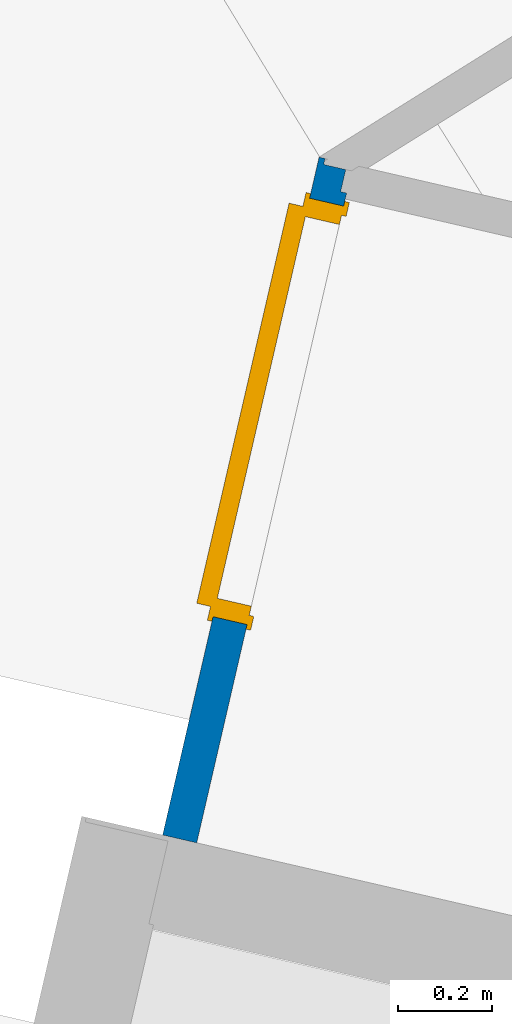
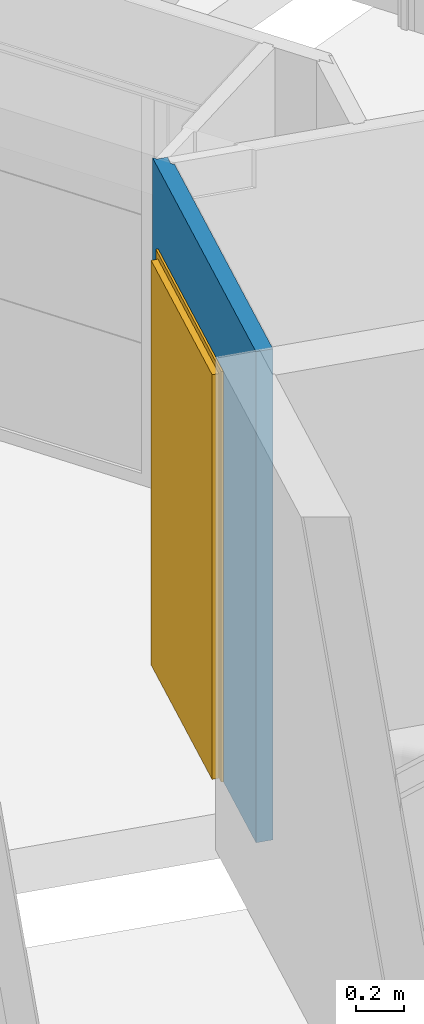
# One storey, part 30 of 119: 1 door, 1 wall, 1 opening.
"""IFC2X3 building model written with IfcOpenShell, lengths in metres."""

from ifc_helpers import new_model, entity, si_unit, converted_unit, derived_unit, money_unit, direction, frame, origin_with_axes, place, context, subcontext, project, spatial, faceted_brep, source, transform, mapped, material, material_list, type_object, element, fill, save


model = new_model("IFC2X3")

# Units and contexts
model_context = context("Model", 3, precision=1e-05, world=origin_with_axes(), true_north=direction((0.0, 1.0)))
body_context = subcontext(model_context, "Body", "Model", "MODEL_VIEW")
ifc_project = project(units=[si_unit("LENGTHUNIT", "METRE"), si_unit("AREAUNIT", "SQUARE_METRE"), si_unit("VOLUMEUNIT", "CUBIC_METRE"), converted_unit("PLANEANGLEUNIT", "DEGREE", entity("IfcPlaneAngleMeasure", 0.0174532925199), si_unit("PLANEANGLEUNIT", "RADIAN"), dimensions=[0, 0, 0, 0, 0, 0, 0]), si_unit("SOLIDANGLEUNIT", "STERADIAN"), money_unit("EUR"), converted_unit("TIMEUNIT", "Year", entity("IfcTimeMeasure", 31556926.0), si_unit("TIMEUNIT", "SECOND"), dimensions=[0, 0, 1, 0, 0, 0, 0]), si_unit("MASSUNIT", "GRAM", prefix="KILO"), si_unit("THERMODYNAMICTEMPERATUREUNIT", "DEGREE_CELSIUS"), si_unit("LUMINOUSINTENSITYUNIT", "LUMEN"), si_unit("ENERGYUNIT", "JOULE", prefix="MEGA"), derived_unit("THERMALCONDUCTANCEUNIT", [(si_unit("POWERUNIT", "WATT"), 1), (si_unit("LENGTHUNIT", "METRE"), -1), (si_unit("THERMODYNAMICTEMPERATUREUNIT", "KELVIN"), -1)]), derived_unit("SPECIFICHEATCAPACITYUNIT", [(si_unit("ENERGYUNIT", "JOULE"), 1), (si_unit("MASSUNIT", "GRAM", prefix="KILO"), -1), (si_unit("THERMODYNAMICTEMPERATUREUNIT", "KELVIN"), -1)]), derived_unit("MASSDENSITYUNIT", [(si_unit("MASSUNIT", "GRAM", prefix="KILO"), 1), (si_unit("VOLUMEUNIT", "CUBIC_METRE"), -1)])], contexts=[model_context])

# Site, building, storey
site_placement = place(None, origin_with_axes())
site = spatial("IfcSite", under=ifc_project, at=site_placement, Name="Site", CompositionType="ELEMENT")
building_placement = place(site_placement, origin_with_axes())
building = spatial("IfcBuilding", under=site, at=building_placement, Name="Bâtiment", CompositionType="ELEMENT")
storey_placement = place(building_placement, origin_with_axes())
storey = spatial("IfcBuildingStorey", under=building, at=storey_placement, Name="Rez-de-chaussée", CompositionType="ELEMENT", Elevation=0.0)

# Wall, opening, door
ifc_material_1 = material(Name="Finition int - Plaque de plâtre")
ifc_material_2 = material(Name="Isolation - Laine de roche")
ifc_material_list = material_list([ifc_material_1, ifc_material_2, ifc_material_1])
wall_type = type_object("IfcWallType", Name="3 - Cloison 72mm Placostil 74", PredefinedType="USERDEFINED")
wall_placement = place(storey_placement, frame((-5.63885297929, 14.3545675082, 0.0), z_axis=(0.0, 0.0, 1.0), x_axis=(0.224876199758, 0.9743873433, 0.0)))
wall = element("IfcWall", 1, at=wall_placement, inside=storey, type_object=wall_type, material=ifc_material_list, Name="Cloison Placostil 72/48", ObjectType="PARTITIONING", context=body_context, shape_type="Brep", body=[
    faceted_brep([(0.474638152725, -0.013, 0.0), (0.474638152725, -0.013, 2.08), (1.38463815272, -0.013, 2.08), (1.38463815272, -0.013, 0.0), (1.47399999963, -0.013, 0.0), (1.47399999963, -0.013, 2.31), (1.46246297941, -0.013, 2.31), (1.46246297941, -0.013, 2.5), (0.0, -0.013, 2.5), (0.0, -0.013, 0.0), (0.474638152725, 0.0, 0.0), (0.474638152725, 0.0, 2.08), (1.38463815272, 0.0, 2.08), (1.38463815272, 0.0, 0.0), (1.47399999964, 0.0, 0.0), (1.47399999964, 0.0, 2.5), (1.47399999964, -0.00173318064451, 2.5), (1.47399999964, -0.00173318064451, 2.31), (0.0, 0.0, 2.5), (0.0, 0.0, 0.0)], [[[0, 1, 2, 3, 4, 5, 6, 7, 8, 9]], [[1, 0, 10, 11]], [[2, 1, 11, 12]], [[3, 2, 12, 13]], [[3, 13, 14, 4]], [[4, 14, 15, 16, 17, 5]], [[6, 5, 17]], [[7, 6, 17, 16]], [[15, 18, 8, 7, 16]], [[9, 8, 18, 19]], [[10, 0, 9, 19]], [[11, 10, 19, 18, 15, 14, 13, 12]]]),
    faceted_brep([(0.474638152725, -0.061, 0.0), (0.474638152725, -0.061, 2.08), (1.38463815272, -0.061, 2.08), (1.38463815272, -0.061, 0.0), (1.46099999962, -0.061, 0.0), (1.46099999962, -0.061, 2.5), (0.0, -0.061, 2.5), (0.0, -0.061, 0.0), (0.474638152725, -0.013, 0.0), (0.474638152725, -0.013, 2.08), (1.38463815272, -0.013, 2.08), (1.38463815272, -0.013, 0.0), (1.46099999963, -0.013, 0.0), (1.46099999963, -0.013, 2.5), (0.0, -0.013, 2.5), (0.0, -0.013, 0.0)], [[[0, 1, 2, 3, 4, 5, 6, 7]], [[1, 0, 8, 9]], [[2, 1, 9, 10]], [[3, 2, 10, 11]], [[3, 11, 12, 4]], [[13, 5, 4, 12]], [[5, 13, 14, 6]], [[7, 6, 14, 15]], [[8, 0, 7, 15]], [[9, 8, 15, 14, 13, 12, 11, 10]]]),
    faceted_brep([(0.474638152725, -0.074, 0.0), (0.474638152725, -0.0740000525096, 2.08), (1.38463815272, -0.0740000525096, 2.08), (1.38463815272, -0.074, 0.0), (1.41299999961, -0.074, 0.0), (1.41299999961, -0.074, 2.31), (1.40000002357, -0.0740000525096, 2.31), (1.40000002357, -0.0740000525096, 2.5), (0.0, -0.074, 2.5), (0.0, -0.074, 0.0), (0.474638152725, -0.061, 0.0), (0.474638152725, -0.061, 2.08), (1.38463815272, -0.061, 2.08), (1.38463815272, -0.061, 0.0), (1.41299999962, -0.061, 0.0), (1.41299999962, -0.061, 2.5), (1.41299999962, -0.0613045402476, 2.5), (1.41299999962, -0.0613045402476, 2.31), (0.0, -0.061, 2.5), (0.0, -0.061, 0.0)], [[[0, 1, 2, 3, 4, 5, 6, 7, 8, 9]], [[1, 0, 10, 11]], [[2, 1, 11, 12]], [[3, 2, 12, 13]], [[3, 13, 14, 4]], [[4, 14, 15, 16, 17, 5]], [[6, 5, 17]], [[7, 6, 17, 16]], [[15, 18, 8, 7, 16]], [[8, 18, 19, 9]], [[10, 0, 9, 19]], [[11, 10, 19, 18, 15, 14, 13, 12]]]),
])
opening_placement = place(wall_placement, frame((0.929638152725, 0.0, 0.0), z_axis=(0.0, 0.0, 1.0), x_axis=(1.0, 0.0, 0.0)))
opening = element("IfcOpeningElement", 2, at=opening_placement, cuts=wall, Name="Porte 83x204 bois alvéolaire", context=body_context, shape_type="Brep", body=[
    faceted_brep([(-0.455, 0.074, 0.0), (0.455, 0.074, 0.0), (0.455, -0.074, 0.0), (-0.455, -0.074, 0.0), (-0.455, 0.074, 2.08), (0.455, 0.074, 2.08), (0.455, -0.074, 2.08), (-0.455, -0.074, 2.08)], [[[0, 1, 2, 3]], [[0, 4, 5, 1]], [[1, 5, 6, 2]], [[3, 2, 6, 7]], [[4, 0, 3, 7]], [[5, 4, 7, 6]]]),
])
door_style = type_object("IfcDoorStyle", Name="Porte int générique 2019", ConstructionType="NOTDEFINED", OperationType="SINGLE_SWING_LEFT", ParameterTakesPrecedence=False, Sizeable=False)
shared_shape = source(origin_with_axes(), body_context, "Body", "Brep", [
    faceted_brep([(-0.455, 0.0, 0.0), (-0.455, 0.0, 2.08), (0.455, 0.0, 2.08), (0.455, 0.0, 0.0), (0.415, 0.0, 0.0), (0.415, 0.0, 2.04), (-0.415, 0.0, 2.04), (-0.415, 0.0, 0.0), (-0.455, -0.074, 0.0), (-0.455, -0.074, 2.08), (0.455, -0.074, 2.08), (0.455, -0.074, 0.0), (0.415, -0.074, 0.0), (0.415, -0.074, 2.04), (-0.415, -0.074, 2.04), (-0.415, -0.074, 0.0)], [[[0, 1, 2, 3, 4, 5, 6, 7]], [[8, 9, 1, 0]], [[9, 10, 2, 1]], [[10, 11, 3, 2]], [[3, 11, 12, 4]], [[5, 4, 12, 13]], [[6, 5, 13, 14]], [[7, 6, 14, 15]], [[0, 7, 15, 8]], [[15, 14, 13, 12, 11, 10, 9, 8]]]),
    faceted_brep([(-0.465, 0.0, 0.0), (-0.465, 0.0, 2.09), (-0.465, 0.01, 2.09), (-0.465, 0.01, 0.0), (-0.435, 0.0, 0.0), (-0.435, 0.0, 2.06), (0.435, 0.0, 2.06), (0.435, 0.0, 0.0), (0.465, 0.0, 0.0), (0.465, 0.0, 2.09), (0.465, 0.01, 2.09), (0.465, 0.01, 0.0), (0.435, 0.01, 0.0), (0.435, 0.01, 2.06), (-0.435, 0.01, 2.06), (-0.435, 0.01, 0.0)], [[[0, 1, 2, 3]], [[4, 5, 6, 7, 8, 9, 1, 0]], [[1, 9, 10, 2]], [[3, 2, 10, 11, 12, 13, 14, 15]], [[0, 3, 15, 4]], [[15, 14, 5, 4]], [[14, 13, 6, 5]], [[13, 12, 7, 6]], [[8, 7, 12, 11]], [[9, 8, 11, 10]]]),
    faceted_brep([(-0.465, -0.084, 0.0), (-0.465, -0.084, 2.09), (-0.465, -0.074, 2.09), (-0.465, -0.074, 0.0), (-0.435, -0.084, 0.0), (-0.435, -0.084, 2.06), (0.435, -0.084, 2.06), (0.435, -0.084, 0.0), (0.465, -0.084, 0.0), (0.465, -0.084, 2.09), (0.465, -0.074, 2.09), (0.465, -0.074, 0.0), (0.435, -0.074, 0.0), (0.435, -0.074, 2.06), (-0.435, -0.074, 2.06), (-0.435, -0.074, 0.0)], [[[0, 1, 2, 3]], [[4, 5, 6, 7, 8, 9, 1, 0]], [[1, 9, 10, 2]], [[3, 2, 10, 11, 12, 13, 14, 15]], [[0, 3, 15, 4]], [[15, 14, 5, 4]], [[14, 13, 6, 5]], [[13, 12, 7, 6]], [[8, 7, 12, 11]], [[9, 8, 11, 10]]]),
    faceted_brep([(-0.435, 0.04, 0.0), (0.435, 0.04, 0.0), (0.435, 0.0, 0.0), (-0.435, 0.0, 0.0), (-0.435, 0.04, 2.06), (0.435, 0.04, 2.06), (0.435, 0.0, 2.06), (-0.435, 0.0, 2.06)], [[[0, 1, 2, 3]], [[0, 4, 5, 1]], [[1, 5, 6, 2]], [[3, 2, 6, 7]], [[4, 0, 3, 7]], [[5, 4, 7, 6]]]),
])
door_placement = place(opening_placement, frame((-0.415, 0.0, 0.0), z_axis=(0.0, 0.0, 1.0), x_axis=(1.0, 0.0, 0.0)))
door = element("IfcDoor", 3, at=door_placement, inside=storey, type_object=door_style, Name="Porte 83x204 bois alvéolaire", ObjectType="DOOR", OverallHeight=2.04, OverallWidth=0.83, context=body_context, shape_type="MappedRepresentation", body=[
    mapped(shared_shape, transform((0.415, 0.0, 0.0))),
])
fill(opening, door)

save(model, "model.ifc")
